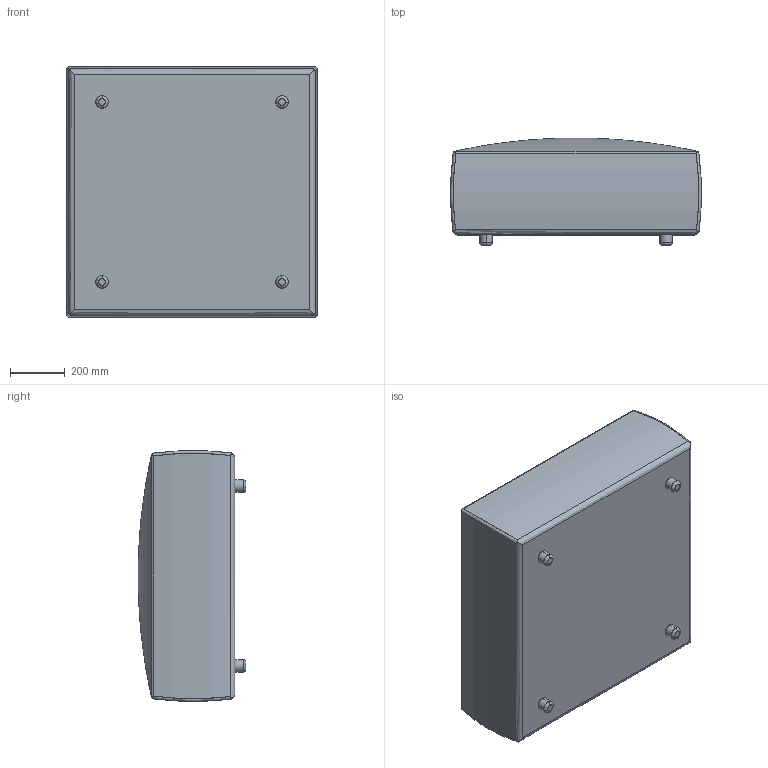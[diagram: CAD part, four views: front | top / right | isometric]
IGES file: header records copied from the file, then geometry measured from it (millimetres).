
Start section: SolidWorks IGES file using analytic representation for surfaces
Global section: file name: \\Logicserver\datos\01-VICCARBE\PRODUCTOS\53-SISTEMA\04-MODELADOS (PLANOS)\WEB\viccarbe-sistema-3D\Modulos\Pouf cuadrado.IGS; native system: SolidWorks 2013; preprocessor: SolidWorks 2013; author: bdisenyo; date: 170120.112138; units: millimetre
Bounding box: 919.98 x 395 x 919.98 mm (x, y, z)
Surface area: 2732712.4 mm2 (no closed solid volume)
Topology: 0 solids, 0 shells, 45 faces, 820 edges, 816 vertices
Faces by surface type: revolution 24, bspline 21
